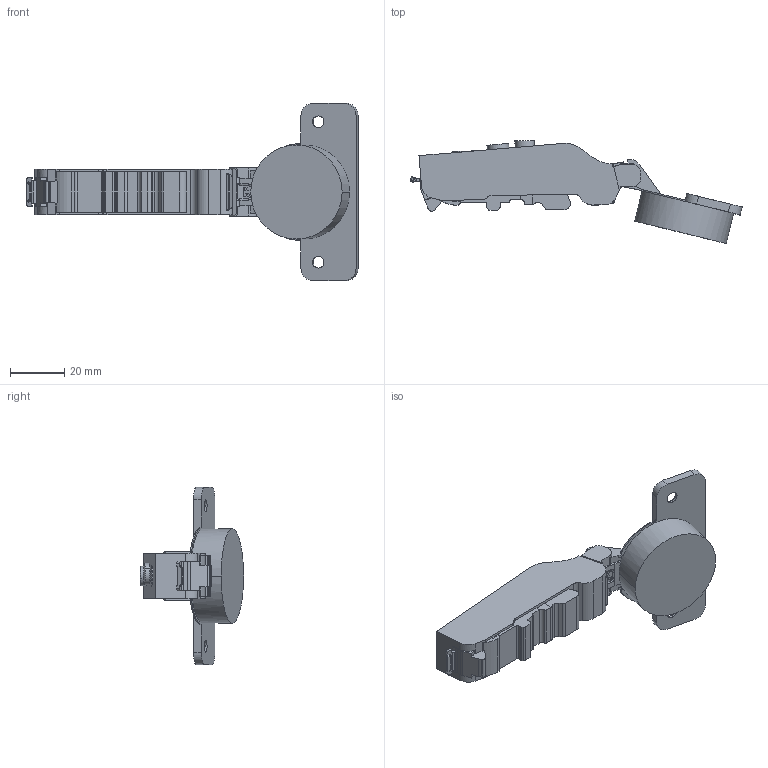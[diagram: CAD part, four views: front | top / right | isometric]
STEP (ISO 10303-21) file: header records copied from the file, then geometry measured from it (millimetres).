
FILE_DESCRIPTION (( 'STEP AP203' ), '1' );
FILE_NAME ('C81A876FAB DTC 3D OPEN.STEP', '2024-07-16T08:16:02', ( '微软用户' ), ( '微软中国' ), 'SwSTEP 2.0', 'SolidWorks 2021', '' );
FILE_SCHEMA (( 'CONFIG_CONTROL_DESIGN' ));
Length unit declared in the file: millimetre
Products named in the file (1): C81A876FAB DTC 3D OPEN
Bounding box: 122.83 x 38.13 x 65.6 mm (x, y, z)
Volume: 41134.8 mm3; surface area: 12552.1 mm2
Topology: 1 solids, 2 shells, 397 faces, 1137 edges, 748 vertices
Faces by surface type: plane 203, cylinder 144, torus 28, bspline 16, cone 6
Entity records: 13656 total; most frequent: CARTESIAN_POINT 3297, ORIENTED_EDGE 2274, DIRECTION 2079, EDGE_CURVE 1137, VERTEX_POINT 748, AXIS2_PLACEMENT_3D 719, VECTOR 641, LINE 641
